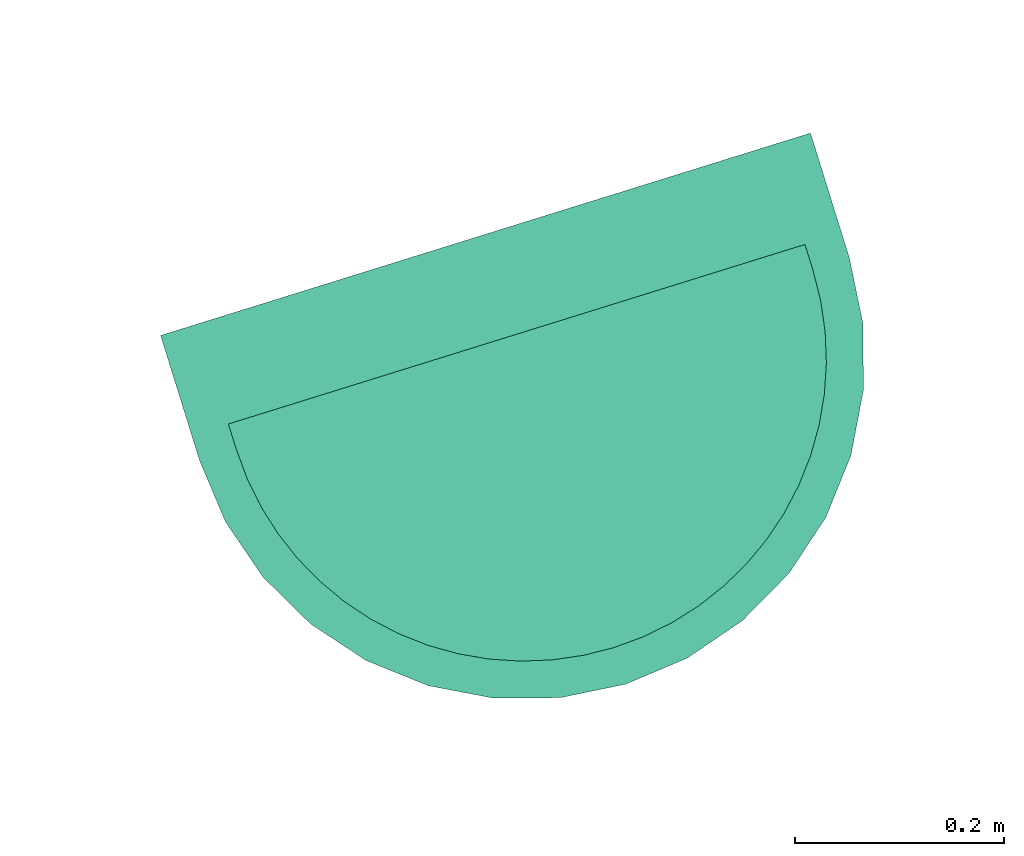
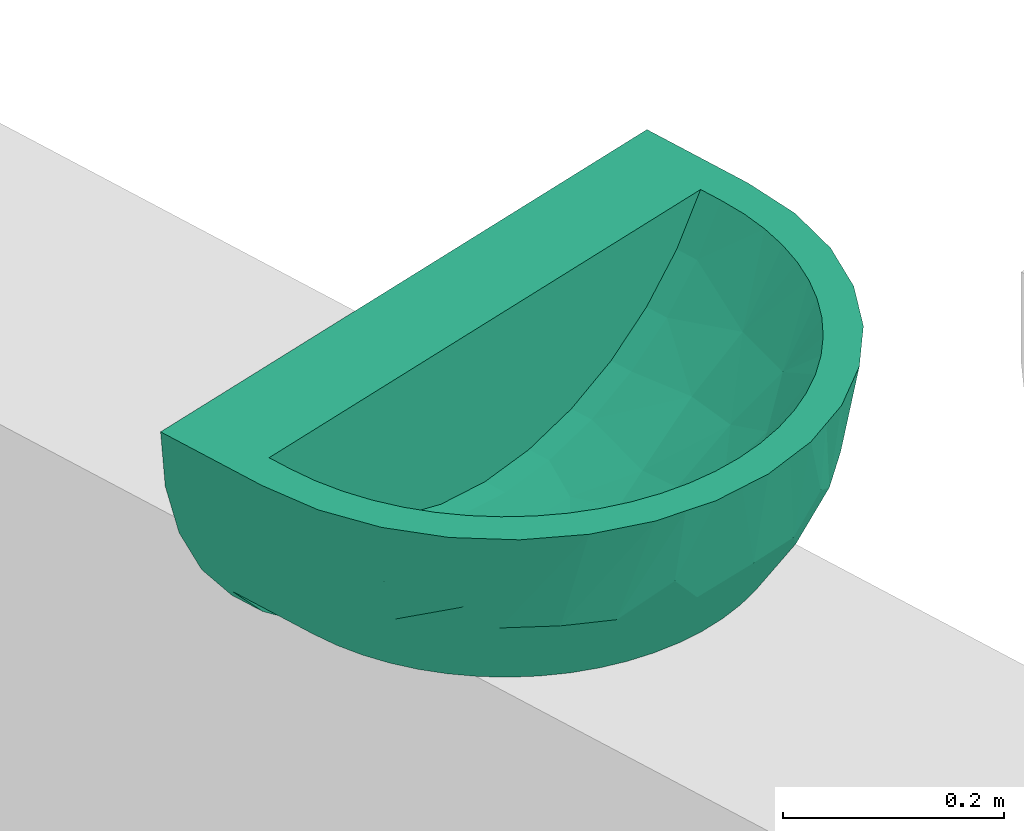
# Not in any storey, part 16 of 17: 1 sanitary terminal.
"""IFC4 model written with IfcOpenShell, lengths in metres."""

from ifc_helpers import new_model, entity, si_unit, converted_unit, direction, frame, origin, place, context, subcontext, project, polygons, source, transform, mapped, material, type_object, type_shapes, element, save


model = new_model("IFC4")

# Units and contexts
model_context = context("Model", 3, precision=1e-05, world=origin(), true_north=direction((6.12323399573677e-17, 1.0)))
body_context = subcontext(model_context, "Body", "Model", "MODEL_VIEW")
ifc_project = project(units=[si_unit("LENGTHUNIT", "METRE"), si_unit("AREAUNIT", "SQUARE_METRE"), converted_unit("PLANEANGLEUNIT", "DEGREE", entity("IfcPlaneAngleMeasure", 0.0174532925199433), si_unit("PLANEANGLEUNIT", "RADIAN"), dimensions=[0, 0, 0, 0, 0, 0, 0]), si_unit("VOLUMEUNIT", "CUBIC_METRE")], contexts=[model_context])

# Sanitary terminal
ifc_material = material(Name="<Unnamed>")
sanitary_terminal_type = type_object("IfcSanitaryTerminalType", Name="NLRS_74_PF_WB_wastafel_gen:wastafel", PredefinedType="SINK", material=ifc_material)
shared_shape = source(origin(), body_context, "Body", "Tessellation", [
    polygons([(-0.303081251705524, 0.175000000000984, -3.7), (-0.303081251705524, 0.0499999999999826, -3.7), (0.021918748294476, 0.0499999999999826, -3.7), (0.021918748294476, 0.150000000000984, -3.7), (-0.266395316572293, 0.150000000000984, -3.7), (-0.266395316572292, 0.175000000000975, -3.7), (-0.264816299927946, 0.205133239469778, -3.7), (-0.260095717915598, 0.234940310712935, -3.7), (-0.252285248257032, 0.264090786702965, -3.7), (-0.241470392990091, 0.292265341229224, -3.7), (-0.227769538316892, 0.319155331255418, -3.7), (-0.21133265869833, 0.344466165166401, -3.7), (-0.192339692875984, 0.367920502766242, -3.7), (-0.170998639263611, 0.389261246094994, -3.7), (-0.147543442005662, 0.408254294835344, -3.7), (-0.122231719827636, 0.424691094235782, -3.7), (-0.0953421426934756, 0.438391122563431, -3.7), (-0.0671705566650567, 0.449204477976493, -3.7), (-0.038024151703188, 0.457013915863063, -3.7), (-0.00821701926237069, 0.461734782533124, -3.7), (0.021918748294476, 0.463314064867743, -3.7), (0.021918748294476, 0.500000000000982, -3.7), (-0.0414856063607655, 0.493755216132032, -3.7), (-0.102453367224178, 0.475260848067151, -3.7), (-0.158641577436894, 0.44522762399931, -3.7), (-0.207890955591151, 0.404809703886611, -3.7), (-0.248308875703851, 0.355560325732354, -3.7), (-0.278342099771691, 0.299372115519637, -3.7), (-0.296836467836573, 0.238404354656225, -3.7), (0.346918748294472, 0.175000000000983, -3.7), (0.340673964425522, 0.238404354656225, -3.7), (0.32217959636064, 0.299372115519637, -3.7), (0.292146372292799, 0.355560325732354, -3.7), (0.2517284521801, 0.404809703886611, -3.7), (0.202479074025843, 0.44522762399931, -3.7), (0.146290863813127, 0.475260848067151, -3.7), (0.0853231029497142, 0.493755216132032, -3.7), (0.0520545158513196, 0.461734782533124, -3.7), (0.0818616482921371, 0.457013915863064, -3.7), (0.111008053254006, 0.449204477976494, -3.7), (0.139179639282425, 0.438391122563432, -3.7), (0.166069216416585, 0.424691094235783, -3.7), (0.191380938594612, 0.408254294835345, -3.7), (0.214836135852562, 0.389261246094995, -3.7), (0.236177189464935, 0.367920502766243, -3.7), (0.255170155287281, 0.344466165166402, -3.7), (0.271607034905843, 0.319155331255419, -3.7), (0.285307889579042, 0.292265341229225, -3.7), (0.296122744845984, 0.264090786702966, -3.7), (0.303933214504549, 0.234940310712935, -3.7), (0.308653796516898, 0.205133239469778, -3.7), (0.310232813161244, 0.175000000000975, -3.7), (0.310232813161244, 0.150000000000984, -3.7), (0.346918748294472, 0.0499999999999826, -3.7), (-0.298628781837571, 0.175000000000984, -3.75361232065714), (-0.285393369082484, 0.175000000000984, -3.8057556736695), (-0.263737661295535, 0.175000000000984, -3.85500134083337), (-0.234255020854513, 0.175000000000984, -3.9), (-0.234255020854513, 0.0749999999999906, -3.9), (-0.193925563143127, 0.0749999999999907, -3.94297372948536), (-0.146498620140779, 0.0749999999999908, -3.97795789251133), (-0.0935337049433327, 0.0749999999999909, -4.00380212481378), (-0.0367724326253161, 0.074999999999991, -4.01965660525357), (0.0219187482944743, 0.074999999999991, -4.025), (0.0806099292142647, 0.074999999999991, -4.01965660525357), (0.137371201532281, 0.0749999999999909, -4.00380212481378), (0.190336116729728, 0.0749999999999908, -3.97795789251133), (0.237763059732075, 0.0749999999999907, -3.94297372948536), (0.278092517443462, 0.0749999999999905, -3.9), (0.278092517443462, 0.175000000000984, -3.9), (0.307575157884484, 0.175000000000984, -3.85500134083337), (0.329230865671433, 0.175000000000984, -3.8057556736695), (0.34246627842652, 0.175000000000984, -3.75361232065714), (0.340673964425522, 0.0499999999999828, -3.76340435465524), (0.32217959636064, 0.049999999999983, -3.82437211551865), (0.292146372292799, 0.0499999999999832, -3.88056032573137), (0.2517284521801, 0.0499999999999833, -3.92980970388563), (0.202479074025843, 0.0499999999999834, -3.97022762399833), (0.146290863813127, 0.0499999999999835, -4.00026084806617), (0.085323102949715, 0.0499999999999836, -4.01875521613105), (0.0219187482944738, 0.0499999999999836, -4.025), (-0.0414856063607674, 0.0499999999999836, -4.01875521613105), (-0.102453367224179, 0.0499999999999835, -4.00026084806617), (-0.158641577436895, 0.0499999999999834, -3.97022762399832), (-0.207890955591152, 0.0499999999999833, -3.92980970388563), (-0.248308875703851, 0.0499999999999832, -3.88056032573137), (-0.278342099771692, 0.049999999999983, -3.82437211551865), (-0.296836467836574, 0.0499999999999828, -3.76340435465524), (-0.21409029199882, 0.0749999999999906, -3.92148686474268), (-0.170212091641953, 0.0749999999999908, -3.96046581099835), (0.214049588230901, 0.0749999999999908, -3.96046581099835), (0.257927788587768, 0.0749999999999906, -3.92148686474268), (0.27193741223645, 0.0499999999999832, -3.9051850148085), (0.227103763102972, 0.0499999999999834, -3.95001866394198), (0.174384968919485, 0.0499999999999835, -3.98524423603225), (0.115806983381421, 0.0499999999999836, -4.00950803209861), (-0.0719694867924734, 0.0499999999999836, -4.00950803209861), (-0.130547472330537, 0.0499999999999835, -3.98524423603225), (-0.183266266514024, 0.0499999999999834, -3.95001866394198), (-0.228099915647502, 0.0499999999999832, -3.9051850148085), (0.163853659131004, 0.0749999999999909, -3.99088000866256), (0.108990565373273, 0.0749999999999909, -4.01172936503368), (-0.0651530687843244, 0.0749999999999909, -4.01172936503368), (-0.120016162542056, 0.0749999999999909, -3.99088000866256), (0.27659082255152, 0.202697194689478, -3.9), (0.272103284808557, 0.230069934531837, -3.9), (0.264682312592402, 0.256797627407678, -3.9), (0.254414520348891, 0.282567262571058, -3.9), (0.24141970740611, 0.307076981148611, -3.9), (0.225849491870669, 0.330039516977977, -3.9), (0.207885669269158, 0.351185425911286, -3.9), (0.18773840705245, 0.370266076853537, -3.9), (0.165644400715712, 0.38705644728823, -3.9), (0.141864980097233, 0.401357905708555, -3.9), (0.116683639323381, 0.413001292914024, -3.9), (0.0904016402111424, 0.421850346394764, -3.9), (0.0633306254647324, 0.427804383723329, -3.9), (0.0357845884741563, 0.430798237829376, -3.9), (0.00807674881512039, 0.43079952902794, -3.9), (-0.0194777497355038, 0.427806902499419, -3.9), (-0.0465597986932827, 0.421851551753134, -3.9), (-0.0728496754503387, 0.412999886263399, -3.9), (-0.0980340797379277, 0.401354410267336, -3.9), (-0.121813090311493, 0.387052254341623, -3.9), (-0.1439051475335, 0.370262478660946, -3.9), (-0.164050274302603, 0.351183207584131, -3.9), (-0.182012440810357, 0.33003893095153, -3.9), (-0.197581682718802, 0.307077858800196, -3.9), (-0.210576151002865, 0.282569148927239, -3.9), (-0.220844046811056, 0.256799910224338, -3.9), (-0.228265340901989, 0.230071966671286, -3.9), (-0.232753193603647, 0.202698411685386, -3.9), (-0.257045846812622, 0.297316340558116, -3.81332461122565), (0.300884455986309, 0.297313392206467, -3.81332505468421), (-0.0097834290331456, 0.496877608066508, -3.7), (-0.205655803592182, 0.378737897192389, -3.81102113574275), (0.249493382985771, 0.378737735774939, -3.81102126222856), (0.0536209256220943, 0.496877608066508, -3.7), (0.0219337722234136, 0.481913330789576, -3.80690747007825), (-0.0719694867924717, 0.484508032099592, -3.7), (0.11580698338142, 0.484508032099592, -3.7), (-0.0425022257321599, 0.471258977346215, -3.81707073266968), (-0.165040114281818, 0.416191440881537, -3.81179477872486), (0.20887408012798, 0.416198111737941, -3.81178629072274), (0.0863501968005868, 0.471256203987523, -3.8170719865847), (-0.23446246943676, 0.305265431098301, -3.85140868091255), (0.278301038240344, 0.305263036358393, -3.85140892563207), (-0.120243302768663, 0.443687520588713, -3.81498681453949), (0.164074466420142, 0.443691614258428, -3.81498507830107), (-0.233336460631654, 0.358005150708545, -3.78353976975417), (0.277175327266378, 0.358003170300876, -3.78353992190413), (-0.290060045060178, 0.240925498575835, -3.76283359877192), (0.333897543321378, 0.240925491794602, -3.76283359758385), (-0.275008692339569, 0.237028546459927, -3.81666856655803), (-0.254394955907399, 0.239447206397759, -3.85850014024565), (-0.272362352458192, 0.296908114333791, -3.76451391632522), (0.31884634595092, 0.237026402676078, -3.81666930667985), (0.298232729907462, 0.239444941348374, -3.85850057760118), (0.316201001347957, 0.296905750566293, -3.76451312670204), (-0.0755829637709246, 0.474402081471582, -3.78047862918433), (-0.0690330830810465, 0.449635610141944, -3.84808121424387), (0.119420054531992, 0.474406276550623, -3.7804635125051), (0.112885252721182, 0.449636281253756, -3.84807095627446), (-0.228099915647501, 0.380185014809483, -3.7), (0.27193741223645, 0.380185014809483, -3.7), (-0.183266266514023, 0.425018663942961, -3.7), (0.227103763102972, 0.425018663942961, -3.7), (-0.130547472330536, 0.460244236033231, -3.7), (0.174384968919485, 0.460244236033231, -3.7), (-0.234514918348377, 0.175000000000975, -3.74966665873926), (-0.194178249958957, 0.175000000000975, -3.79274902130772), (-0.146715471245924, 0.175000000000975, -3.82782638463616), (-0.0936917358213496, 0.175000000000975, -3.85374202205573), (-0.0368555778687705, 0.175000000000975, -3.86964132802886), (0.0219187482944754, 0.175000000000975, -3.875), (0.0806930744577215, 0.175000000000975, -3.86964132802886), (0.137529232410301, 0.175000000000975, -3.85374202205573), (0.190552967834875, 0.175000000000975, -3.82782638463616), (0.238015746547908, 0.175000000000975, -3.79274902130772), (0.278352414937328, 0.175000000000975, -3.74966665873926), (-0.119627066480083, 0.322173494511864, -3.80284332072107), (0.163464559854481, 0.32217349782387, -3.8028433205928), (-0.200517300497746, 0.262511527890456, -3.77020203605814), (0.244354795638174, 0.262511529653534, -3.77020203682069), (-0.162633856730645, 0.347041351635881, -3.75485875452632), (0.206471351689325, 0.347041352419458, -3.75485875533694), (0.00220012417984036, 0.367185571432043, -3.81134437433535), (-0.0912046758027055, 0.393814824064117, -3.76200981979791), (0.135042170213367, 0.393814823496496, -3.76200982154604), (0.0498196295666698, 0.280825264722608, -3.85601887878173), (-0.0620730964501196, 0.266760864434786, -3.85025041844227), (0.160889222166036, 0.248929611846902, -3.83433540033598), (0.0405814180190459, 0.417340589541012, -3.76574926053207), (0.0863370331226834, 0.354389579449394, -3.81323879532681), (-0.00909478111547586, 0.420066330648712, -3.76120050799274), (-0.0478694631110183, 0.381606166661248, -3.79097405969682), (-0.0422183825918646, 0.327597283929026, -3.82968821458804), (-0.0074080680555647, 0.286981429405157, -3.8536858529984), (-0.00719351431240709, 0.22811728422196, -3.869305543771), (-0.0504034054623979, 0.422275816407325, -3.7481140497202), (0.115439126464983, 0.298042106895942, -3.83590134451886), (0.101584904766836, 0.237319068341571, -3.85886022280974), (-0.144773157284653, 0.251326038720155, -3.81835264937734), (0.0860600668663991, 0.418745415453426, -3.75518056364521), (-0.234512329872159, 0.150000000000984, -3.74966998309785), (-0.19417475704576, 0.150000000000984, -3.79275213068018), (-0.146711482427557, 0.150000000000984, -3.8278288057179), (-0.0936885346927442, 0.150000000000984, -3.85374324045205), (-0.0368543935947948, 0.150000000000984, -3.869641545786), (0.021917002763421, 0.150000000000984, -3.87499999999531), (0.080687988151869, 0.150000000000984, -3.86964226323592), (0.137520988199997, 0.150000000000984, -3.85374515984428), (0.19054233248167, 0.150000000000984, -3.82783283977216), (0.238003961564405, 0.150000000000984, -3.79275951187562), (0.278341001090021, 0.150000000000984, -3.74968131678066)], [[[22, 135, 23, 140, 24, 168, 25, 166, 26, 164, 27, 28, 29, 1, 2, 3, 54, 30, 31, 32, 33, 165, 34, 167, 35, 169, 36, 141, 37, 138], [21, 38, 39, 40, 41, 42, 43, 44, 45, 46, 47, 48, 49, 50, 51, 52, 53, 4, 5, 6, 7, 8, 9, 10, 11, 12, 13, 14, 15, 16, 17, 18, 19, 20]], [[55, 2, 1]], [[88, 55, 56]], [[56, 57, 87]], [[89, 100, 59]], [[97, 62, 103]], [[104, 83, 98]], [[82, 103, 63]], [[97, 103, 82]], [[63, 81, 82]], [[57, 58, 59]], [[68, 77, 94]], [[86, 59, 100]], [[86, 87, 57]], [[88, 2, 55]], [[56, 87, 88]], [[59, 86, 57]], [[98, 84, 61]], [[83, 62, 97]], [[60, 99, 85]], [[90, 61, 84]], [[69, 76, 93]], [[90, 99, 60]], [[100, 89, 85]], [[60, 85, 89]], [[78, 67, 91]], [[63, 64, 81]], [[66, 96, 102]], [[83, 104, 62]], [[68, 94, 91]], [[67, 78, 95]], [[79, 101, 95]], [[67, 95, 101]], [[72, 73, 74]], [[69, 70, 71]], [[75, 71, 72]], [[77, 68, 92]], [[81, 64, 65]], [[54, 73, 30]], [[99, 90, 84]], [[102, 80, 65]], [[79, 66, 101]], [[91, 94, 78]], [[80, 102, 96]], [[65, 80, 81]], [[66, 79, 96]], [[93, 77, 92]], [[69, 71, 76]], [[75, 76, 71]], [[72, 74, 75]], [[73, 54, 74]], [[69, 93, 92]], [[98, 61, 104]], [[74, 54, 3, 2, 88, 87, 86, 100, 85, 99, 84, 98, 83, 97, 82, 81, 80, 96, 79, 95, 78, 94, 77, 93, 76, 75]], [[143, 136, 25]], [[32, 159, 33]], [[134, 157, 158]], [[143, 125, 126]], [[146, 150, 136]], [[126, 127, 143]], [[109, 147, 108]], [[136, 143, 127]], [[125, 143, 148]], [[153, 157, 159]], [[121, 122, 161]], [[142, 135, 139]], [[153, 159, 32]], [[119, 120, 142]], [[24, 148, 143]], [[142, 160, 23]], [[147, 151, 134]], [[160, 161, 148]], [[124, 148, 123]], [[140, 148, 24]], [[160, 140, 23]], [[158, 106, 107]], [[128, 146, 136]], [[29, 28, 152]], [[148, 140, 160]], [[55, 152, 56]], [[156, 133, 154]], [[29, 55, 1]], [[152, 55, 29]], [[151, 34, 165]], [[137, 151, 147]], [[156, 28, 27]], [[121, 161, 142]], [[119, 142, 139]], [[131, 155, 130]], [[129, 130, 146]], [[149, 112, 113]], [[150, 26, 166]], [[58, 57, 155]], [[139, 118, 119]], [[56, 154, 57]], [[155, 57, 154]], [[161, 123, 148]], [[138, 145, 139]], [[155, 146, 130]], [[127, 128, 136]], [[133, 164, 150]], [[155, 132, 58]], [[161, 160, 142]], [[145, 138, 37]], [[71, 70, 158]], [[128, 129, 146]], [[139, 135, 22]], [[138, 139, 22]], [[139, 145, 118]], [[135, 142, 23]], [[145, 116, 117]], [[114, 149, 113]], [[149, 141, 36]], [[144, 35, 137]], [[154, 152, 156]], [[146, 155, 133]], [[110, 144, 137]], [[148, 124, 125]], [[163, 145, 162]], [[151, 165, 134]], [[144, 112, 149]], [[137, 109, 110]], [[118, 145, 117]], [[154, 133, 155]], [[162, 145, 37]], [[28, 156, 152]], [[150, 146, 133]], [[24, 143, 25, 168]], [[111, 112, 144]], [[110, 111, 144]], [[116, 145, 163]], [[137, 167, 151]], [[109, 137, 147]], [[120, 121, 142]], [[71, 158, 157]], [[107, 147, 158]], [[162, 37, 141]], [[147, 134, 158]], [[107, 108, 147]], [[157, 72, 71]], [[70, 105, 158]], [[152, 154, 56]], [[153, 31, 73]], [[114, 115, 163]], [[137, 35, 167]], [[156, 164, 133]], [[30, 73, 31]], [[153, 73, 72]], [[150, 166, 136]], [[157, 134, 159]], [[105, 106, 158]], [[31, 153, 32]], [[144, 36, 169, 35]], [[155, 131, 132]], [[164, 26, 150]], [[159, 134, 165]], [[157, 153, 72]], [[161, 122, 123]], [[141, 149, 162]], [[149, 114, 163]], [[149, 163, 162]], [[116, 163, 115]], [[164, 156, 27]], [[165, 33, 159]], [[25, 136, 166]], [[34, 151, 167]], [[36, 144, 149]], [[16, 15, 185]], [[190, 187, 198]], [[14, 13, 185]], [[199, 202, 190]], [[197, 198, 187]], [[183, 185, 11]], [[188, 17, 16]], [[191, 197, 181]], [[21, 195, 193]], [[193, 194, 204]], [[191, 203, 173]], [[197, 187, 196]], [[195, 200, 196]], [[20, 195, 21]], [[188, 16, 185]], [[195, 196, 187]], [[188, 196, 200]], [[198, 197, 191]], [[8, 183, 9]], [[188, 200, 18]], [[8, 7, 170]], [[201, 194, 190]], [[192, 201, 202]], [[170, 7, 6]], [[10, 9, 183]], [[20, 19, 200]], [[203, 183, 171]], [[173, 203, 172]], [[190, 202, 201]], [[171, 183, 170]], [[170, 183, 8]], [[185, 13, 12]], [[10, 183, 11]], [[179, 184, 178]], [[17, 188, 18]], [[12, 11, 185]], [[198, 199, 190]], [[14, 185, 15]], [[196, 188, 181]], [[174, 199, 191]], [[195, 187, 193]], [[182, 189, 194]], [[186, 42, 189]], [[182, 192, 184]], [[202, 176, 177]], [[189, 41, 40]], [[39, 38, 204]], [[43, 42, 186]], [[45, 44, 186]], [[197, 196, 181]], [[186, 184, 47]], [[194, 193, 187]], [[204, 189, 40]], [[186, 47, 46]], [[194, 201, 182]], [[44, 43, 186]], [[174, 175, 199]], [[48, 47, 184]], [[42, 41, 189]], [[174, 191, 173]], [[178, 184, 192]], [[192, 177, 178]], [[182, 184, 186]], [[181, 183, 203]], [[199, 198, 191]], [[181, 188, 185]], [[179, 180, 184]], [[200, 195, 20]], [[18, 200, 19]], [[180, 50, 184]], [[52, 51, 180]], [[50, 180, 51]], [[38, 21, 193]], [[46, 45, 186]], [[202, 199, 175]], [[184, 50, 49]], [[48, 184, 49]], [[181, 185, 183]], [[192, 182, 201]], [[40, 39, 204]], [[190, 194, 187]], [[182, 186, 189]], [[192, 202, 177]], [[175, 176, 202]], [[181, 203, 191]], [[172, 203, 171]], [[189, 204, 194]], [[193, 204, 38]], [[6, 5, 170]], [[170, 205, 171]], [[173, 172, 207]], [[206, 172, 171]], [[174, 173, 208]], [[170, 5, 205]], [[171, 205, 206]], [[174, 209, 210]], [[173, 207, 208]], [[174, 208, 209]], [[207, 172, 206]], [[210, 175, 174]], [[176, 175, 211]], [[176, 212, 177]], [[179, 178, 214]], [[213, 178, 177]], [[180, 179, 215]], [[212, 176, 211]], [[213, 177, 212]], [[214, 215, 179]], [[178, 213, 214]], [[53, 180, 215]], [[180, 53, 52]], [[210, 211, 175]], [[215, 214, 213, 212, 211, 210, 209, 208, 207, 206, 205, 5, 4, 53]], [[67, 101, 66, 102, 65, 64, 63, 103, 62, 104, 61, 90, 60, 89, 59, 69, 92, 68, 91]], [[69, 59, 58, 132, 131, 130, 129, 128, 127, 126, 125, 124, 123, 122, 121, 120, 119, 118, 117, 116, 115, 114, 113, 112, 111, 110, 109, 108, 107, 106, 105, 70]]], closed=True),
])
type_shapes(sanitary_terminal_type, [shared_shape])
placement_1 = place(None, frame((13.1347999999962, 11.9886000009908, 0.0), z_axis=(0.0, 0.0, 1.0), x_axis=(0.954770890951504, 0.297342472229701, 0.0)))
placement_2 = place(placement_1, origin())
placement_3 = place(placement_2, frame((0.0, 0.0, 3.9)))
placement_4 = place(placement_3, origin())
sanitary_terminal_placement = place(placement_4, frame((77.5219187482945, 28.6749999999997, 4.525), z_axis=(0.0, 0.0, 1.0), x_axis=(-1.0, 0.0, 0.0)))
element("IfcSanitaryTerminal", 1, at=sanitary_terminal_placement, type_object=sanitary_terminal_type, material=ifc_material, Name="NLRS_74_PF_WB_wastafel_gen:wastafel", ObjectType="NLRS_74_PF_WB_wastafel_gen:wastafel", PredefinedType="SINK", context=body_context, shape_type="MappedRepresentation", body=[
    mapped(shared_shape, transform((0.0, 0.0, 0.0), scale=1.0)),
])

save(model, "model.ifc")
